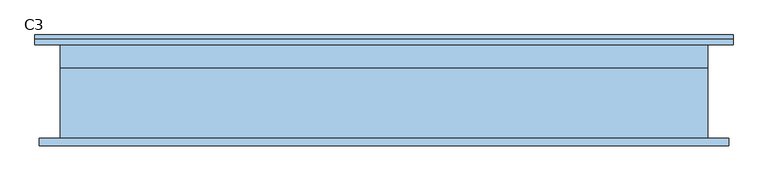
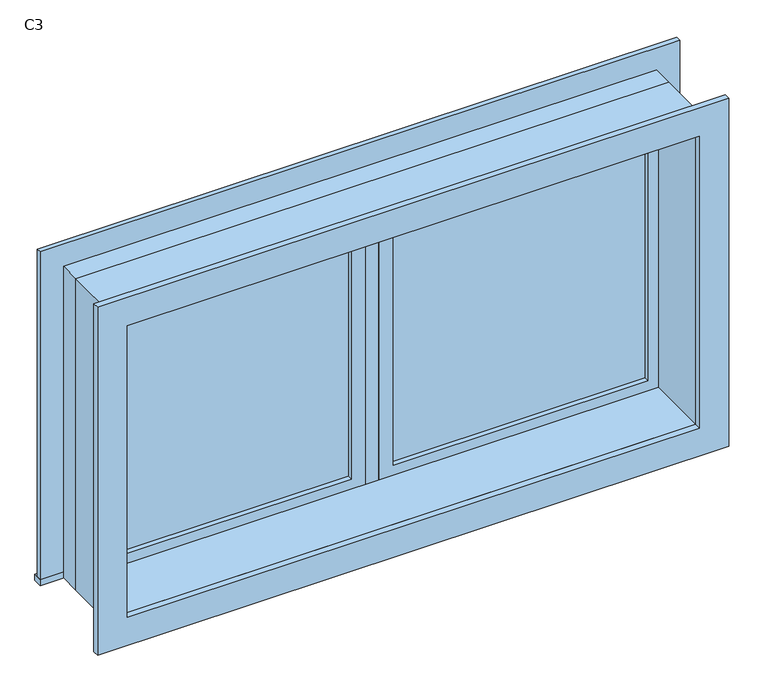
"""IFC4 building model written with IfcOpenShell, lengths in millimetres: window geometry, 双扇平开 - 带贴面 : C3."""

from ifc_helpers import new_model, si_unit, frame, origin, place, context, project, spatial, polyline, outline, extrude, source, transform, mapped, element, save


def c3_c6347dd0(model_context):
    return source(origin(), model_context, "Body", "SweptSolid", [
        extrude(outline(polyline([(63.5, 94.125), (836.5, 94.125), (836.5, 81.425), (63.5, 81.425), (63.5, 94.125)])), frame((0.0, 0.0, 2064.5), z_axis=(0.0, 0.0, 1.0), x_axis=(1.0, 0.0, 0.0)), (0.0, 0.0, 1.0), 873.0),
        extrude(outline(polyline([(2981.95, 19.05), (2020.05, 19.05), (2020.05, 880.95), (2981.95, 880.95), (2981.95, 19.05)]), holes=[polyline([(2937.5, 63.5), (2937.5, 836.5), (2064.5, 836.5), (2064.5, 63.5), (2937.5, 63.5)])]), frame((0.0, 65.55, 0.0), z_axis=(0.0, 1.0, 0.0), x_axis=(0.0, 0.0, 1.0)), (0.0, 0.0, 1.0), 44.45),
        extrude(outline(polyline([(19.05, 65.55), (-19.05, 65.55), (-19.05, 129.05), (19.05, 129.05), (19.05, 65.55)])), frame((0.0, 0.0, 2020.05), z_axis=(0.0, 0.0, 1.0), x_axis=(1.0, 0.0, 0.0)), (0.0, 0.0, 1.0), 961.9),
        extrude(outline(polyline([(-63.5, 81.425), (-836.5, 81.425), (-836.5, 94.125), (-63.5, 94.125), (-63.5, 81.425)])), frame((0.0, 0.0, 2064.5), z_axis=(0.0, 0.0, 1.0), x_axis=(1.0, 0.0, 0.0)), (0.0, 0.0, 1.0), 873.0),
        extrude(outline(polyline([(2981.95, -880.95), (2020.05, -880.95), (2020.05, -19.05), (2981.95, -19.05), (2981.95, -880.95)]), holes=[polyline([(2937.5, -836.5), (2937.5, -63.5), (2064.5, -63.5), (2064.5, -836.5), (2937.5, -836.5)])]), frame((0.0, 65.55, 0.0), z_axis=(0.0, 1.0, 0.0), x_axis=(0.0, 0.0, 1.0)), (0.0, 0.0, 1.0), 44.45),
        extrude(outline(polyline([(3001.0, -900.0), (2001.0, -900.0), (2001.0, 900.0), (3001.0, 900.0), (3001.0, -900.0)]), holes=[polyline([(2969.25, -868.25), (2969.25, 868.25), (2032.75, 868.25), (2032.75, -868.25), (2969.25, -868.25)])]), frame((0.0, -130.0, 0.0), z_axis=(0.0, 1.0, 0.0), x_axis=(0.0, 0.0, 1.0)), (0.0, 0.0, 1.0), 195.55),
        extrude(outline(polyline([(3001.0, 900.0), (3001.0, -900.0), (2001.0, -900.0), (2001.0, 900.0), (3001.0, 900.0)]), holes=[polyline([(2981.95, 880.95), (2020.05, 880.95), (2020.05, -880.95), (2981.95, -880.95), (2981.95, 880.95)])]), frame((0.0, 65.55, 0.0), z_axis=(0.0, 1.0, 0.0), x_axis=(0.0, 0.0, 1.0)), (0.0, 0.0, 1.0), 64.45),
        extrude(outline(polyline([(-970.95, 157.7), (970.95, 157.7), (970.95, 130.0), (-970.95, 130.0), (-970.95, 157.7)])), frame((0.0, 0.0, 2001.0), z_axis=(0.0, 0.0, 1.0), x_axis=(1.0, 0.0, 0.0)), (0.0, 0.0, 1.0), 19.05),
        extrude(outline(polyline([(2981.95, -880.95), (2981.95, 880.95), (2020.05, 880.95), (2020.05, 970.95), (3071.95, 970.95), (3071.95, -970.95), (2020.05, -970.95), (2020.05, -880.95), (2981.95, -880.95)])), frame((0.0, 130.0, 0.0), z_axis=(0.0, 1.0, 0.0), x_axis=(0.0, 0.0, 1.0)), (0.0, 0.0, 1.0), 15.0),
        extrude(outline(polyline([(3059.25, 958.25), (3059.25, -958.25), (1942.75, -958.25), (1942.75, 958.25), (3059.25, 958.25)]), holes=[polyline([(2969.25, 868.25), (2032.75, 868.25), (2032.75, -868.25), (2969.25, -868.25), (2969.25, 868.25)])]), frame((0.0, -150.0, 0.0), z_axis=(0.0, 1.0, 0.0), x_axis=(0.0, 0.0, 1.0)), (0.0, 0.0, 1.0), 20.0),
    ])


if __name__ == "__main__":
    model = new_model("IFC4")
    model_context = context("Model", 3, world=origin())
    ifc_project = project(units=[si_unit("LENGTHUNIT", "METRE", prefix="MILLI")], contexts=[model_context])
    site = spatial("IfcSite", under=ifc_project)
    building = spatial("IfcBuilding", under=site)
    placement = place(None, origin())
    c3_shape = c3_c6347dd0(model_context)
    element("IfcWindow", 1, ObjectType="双扇平开 - 带贴面 : C3", at=placement, inside=building, context=model_context, shape_type="MappedRepresentation", body=[
        mapped(c3_shape, transform((0.0, 0.0, 0.0), x_axis=(1.0, 0.0, 0.0), y_axis=(0.0, 1.0, 0.0), z_axis=(0.0, 0.0, 1.0))),
    ])
    save(model, "model.ifc")
